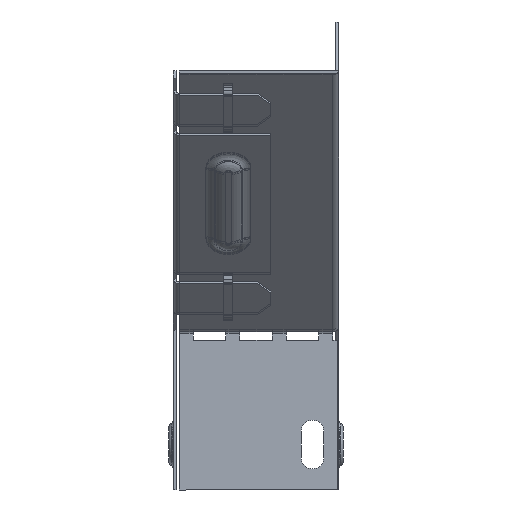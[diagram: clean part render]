
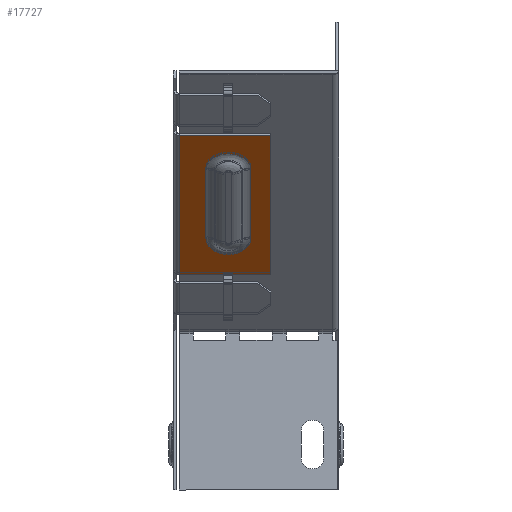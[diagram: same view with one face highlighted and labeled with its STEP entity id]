
A CAD part, left-side view. The second image highlights one B-rep face of the part: STEP entity #17727.
In plain terms, the highlighted planar face has unit normal (-0.707, 0, -0.707).
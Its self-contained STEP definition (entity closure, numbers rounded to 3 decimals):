
#2 = DIRECTION ( 'NONE',  ( -0.707, 0., 0.707 ) ) ;
#394 = CARTESIAN_POINT ( 'NONE',  ( -136.823, 20., -34.855 ) ) ;
#452 = DIRECTION ( 'NONE',  ( 0.707, 0., 0.707 ) ) ;
#1426 = EDGE_LOOP ( 'NONE', ( #15367, #7515, #1468, #4406 ) ) ;
#1468 = ORIENTED_EDGE ( 'NONE', *, *, #8650, .T. ) ;
#1785 = CARTESIAN_POINT ( 'NONE',  ( -94.022, 20., -77.656 ) ) ;
#1944 = AXIS2_PLACEMENT_3D ( 'NONE', #11003, #13888, #12157 ) ;
#2111 = CARTESIAN_POINT ( 'NONE',  ( -136.823, 20., -34.855 ) ) ;
#2175 = CARTESIAN_POINT ( 'NONE',  ( -104.993, 26.183, -66.685 ) ) ;
#2196 = CARTESIAN_POINT ( 'NONE',  ( -153.087, 48.2, -18.591 ) ) ;
#2676 = VECTOR ( 'NONE', #8217, 1000. ) ;
#3091 = VERTEX_POINT ( 'NONE', #13778 ) ;
#3245 = CARTESIAN_POINT ( 'NONE',  ( -94.022, 48.2, -77.656 ) ) ;
#3851 = LINE ( 'NONE', #2111, #18785 ) ;
#4031 = EDGE_CURVE ( 'NONE', #11953, #11464, #6648, .T. ) ;
#4283 = VECTOR ( 'NONE', #13889, 1000. ) ;
#4406 = ORIENTED_EDGE ( 'NONE', *, *, #7698, .T. ) ;
#4645 = CARTESIAN_POINT ( 'NONE',  ( -104.993, 40.017, -66.685 ) ) ;
#4943 = LINE ( 'NONE', #7480, #8878 ) ;
#5668 = ORIENTED_EDGE ( 'NONE', *, *, #10057, .T. ) ;
#5736 = CARTESIAN_POINT ( 'NONE',  ( -126.206, 33.1, -45.472 ) ) ;
#6552 = CIRCLE ( 'NONE', #6948, 6.917 ) ;
#6648 = LINE ( 'NONE', #12520, #17888 ) ;
#6745 = DIRECTION ( 'NONE',  ( 0., -1., 0. ) ) ;
#6948 = AXIS2_PLACEMENT_3D ( 'NONE', #5736, #15986, #14523 ) ;
#7480 = CARTESIAN_POINT ( 'NONE',  ( -104.993, 40.017, -66.685 ) ) ;
#7515 = ORIENTED_EDGE ( 'NONE', *, *, #4031, .T. ) ;
#7698 = EDGE_CURVE ( 'NONE', #9281, #3091, #3851, .T. ) ;
#8131 = ORIENTED_EDGE ( 'NONE', *, *, #16506, .T. ) ;
#8217 = DIRECTION ( 'NONE',  ( -0.707, 0., 0.707 ) ) ;
#8650 = EDGE_CURVE ( 'NONE', #11464, #9281, #18080, .T. ) ;
#8664 = LINE ( 'NONE', #2175, #4283 ) ;
#8878 = VECTOR ( 'NONE', #2, 1000. ) ;
#9026 = EDGE_CURVE ( 'NONE', #11953, #3091, #15533, .T. ) ;
#9281 = VERTEX_POINT ( 'NONE', #394 ) ;
#9309 = CARTESIAN_POINT ( 'NONE',  ( -126.206, 26.183, -45.472 ) ) ;
#9642 = CARTESIAN_POINT ( 'NONE',  ( -104.993, 26.183, -66.685 ) ) ;
#10057 = EDGE_CURVE ( 'NONE', #13938, #13736, #4943, .T. ) ;
#10701 = ORIENTED_EDGE ( 'NONE', *, *, #13939, .T. ) ;
#10731 = DIRECTION ( 'NONE',  ( 0.707, 0., -0.707 ) ) ;
#11003 = CARTESIAN_POINT ( 'NONE',  ( -104.993, 33.1, -66.685 ) ) ;
#11106 = EDGE_CURVE ( 'NONE', #17259, #13938, #15987, .T. ) ;
#11464 = VERTEX_POINT ( 'NONE', #1785 ) ;
#11541 = FACE_OUTER_BOUND ( 'NONE', #1426, .T. ) ;
#11773 = CARTESIAN_POINT ( 'NONE',  ( -126.206, 40.017, -45.472 ) ) ;
#11953 = VERTEX_POINT ( 'NONE', #3245 ) ;
#11978 = VERTEX_POINT ( 'NONE', #9309 ) ;
#12157 = DIRECTION ( 'NONE',  ( 0.5, -0.707, -0.5 ) ) ;
#12520 = CARTESIAN_POINT ( 'NONE',  ( -94.022, 20., -77.656 ) ) ;
#13103 = DIRECTION ( 'NONE',  ( -0.707, 0., 0.707 ) ) ;
#13609 = ORIENTED_EDGE ( 'NONE', *, *, #11106, .T. ) ;
#13736 = VERTEX_POINT ( 'NONE', #11773 ) ;
#13778 = CARTESIAN_POINT ( 'NONE',  ( -136.823, 48.2, -34.855 ) ) ;
#13887 = DIRECTION ( 'NONE',  ( 0., 1., 0. ) ) ;
#13888 = DIRECTION ( 'NONE',  ( 0.707, 0., 0.707 ) ) ;
#13889 = DIRECTION ( 'NONE',  ( 0.707, 0., -0.707 ) ) ;
#13938 = VERTEX_POINT ( 'NONE', #4645 ) ;
#13939 = EDGE_CURVE ( 'NONE', #13736, #11978, #6552, .T. ) ;
#14291 = EDGE_LOOP ( 'NONE', ( #8131, #13609, #5668, #10701 ) ) ;
#14523 = DIRECTION ( 'NONE',  ( 0.5, -0.707, -0.5 ) ) ;
#14648 = CARTESIAN_POINT ( 'NONE',  ( -78.337, 20., -93.341 ) ) ;
#15074 = PLANE ( 'NONE',  #15852 ) ;
#15140 = CARTESIAN_POINT ( 'NONE',  ( -78.337, 50., -93.341 ) ) ;
#15367 = ORIENTED_EDGE ( 'NONE', *, *, #9026, .F. ) ;
#15533 = LINE ( 'NONE', #2196, #2676 ) ;
#15852 = AXIS2_PLACEMENT_3D ( 'NONE', #15140, #452, #10731 ) ;
#15986 = DIRECTION ( 'NONE',  ( 0.707, 0., 0.707 ) ) ;
#15987 = CIRCLE ( 'NONE', #1944, 6.917 ) ;
#16506 = EDGE_CURVE ( 'NONE', #11978, #17259, #8664, .T. ) ;
#16686 = VECTOR ( 'NONE', #13103, 1000. ) ;
#17259 = VERTEX_POINT ( 'NONE', #9642 ) ;
#17485 = FACE_BOUND ( 'NONE', #14291, .T. ) ;
#17727 = ADVANCED_FACE ( 'NONE', ( #17485, #11541 ), #15074, .F. ) ;
#17888 = VECTOR ( 'NONE', #6745, 1000. ) ;
#18080 = LINE ( 'NONE', #14648, #16686 ) ;
#18785 = VECTOR ( 'NONE', #13887, 1000. ) ;
